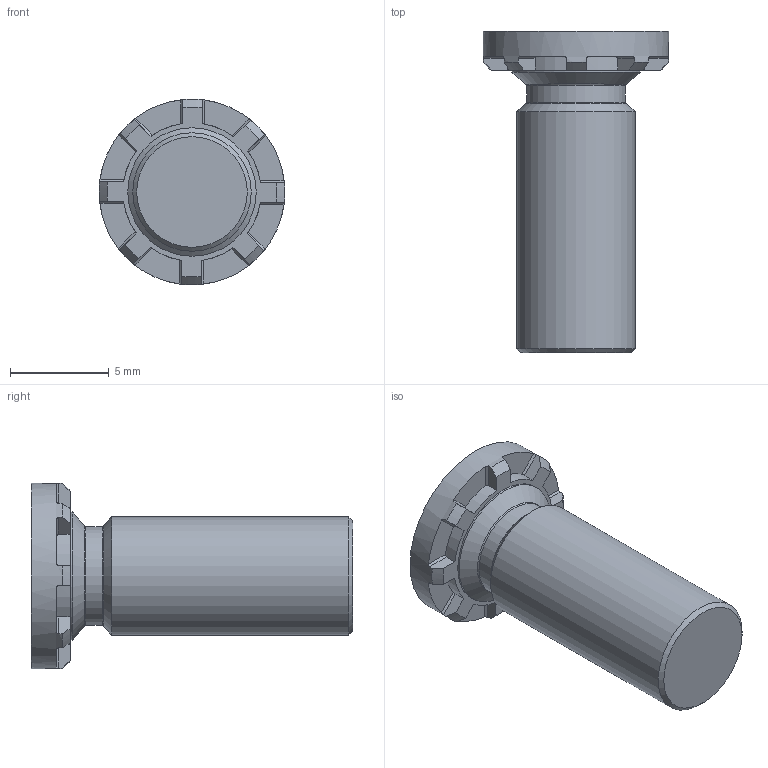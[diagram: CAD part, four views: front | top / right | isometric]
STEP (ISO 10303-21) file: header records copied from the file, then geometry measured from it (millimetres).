
FILE_DESCRIPTION(/* description */ (''),/* implementation_level */ '2;1');
FILE_NAME(/* name */ 'C:\Users\keval.kumar\Desktop\Fastit\Clinch Screw- HFH Range\M6\Clinch Screw-HFH Range_M6x15.stp',/* time_stamp */ '2024-03-12T15:30:40+05:00',/* author */ ('keval.kumar'),/* organization */ (''),/* preprocessor_version */ 'ST-DEVELOPER v18.1',/* originating_system */ 'Autodesk Inventor 2022',/* authorisation */ '');
FILE_SCHEMA (('AUTOMOTIVE_DESIGN { 1 0 10303 214 3 1 1 }'));
Length unit declared in the file: millimetre
Products named in the file (1): Clinch Screw-HFH Range_M6x15
Bounding box: 9.4 x 16.27 x 9.4 mm (x, y, z)
Volume: 514.3 mm3; surface area: 469.4 mm2
Topology: 1 solids, 1 shells, 68 faces, 193 edges, 128 vertices
Faces by surface type: plane 43, cylinder 12, cone 11, torus 2
Full cylindrical faces by diameter (mm): 5 x1, 6 x1, 6.5 x1, 9.4 x1
Entity records: 2278 total; most frequent: CARTESIAN_POINT 422, DIRECTION 405, ORIENTED_EDGE 386, EDGE_CURVE 193, AXIS2_PLACEMENT_3D 159, VERTEX_POINT 128, LINE 87, VECTOR 87
